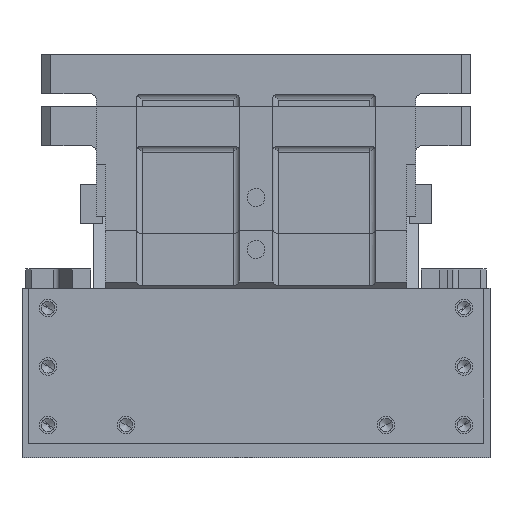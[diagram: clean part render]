
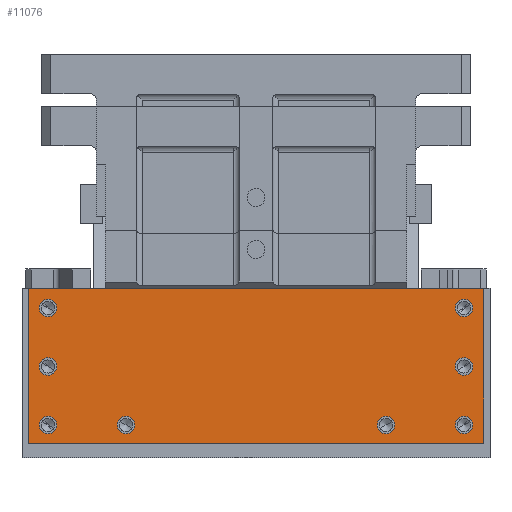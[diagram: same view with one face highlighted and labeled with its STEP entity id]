
A CAD part, left-side view. The second image highlights one B-rep face of the part: STEP entity #11076.
In plain terms, the highlighted planar face has unit normal (-1, 0, 0).
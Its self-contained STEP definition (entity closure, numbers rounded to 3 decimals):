
#8899=CARTESIAN_POINT('Vertex',(-12.,175.,130.)) ;
#8902=CARTESIAN_POINT('Line Origine',(-12.,0.,130.)) ;
#8906=CARTESIAN_POINT('Vertex',(-12.,-175.,130.)) ;
#10889=CARTESIAN_POINT('Vertex',(-12.,105.924,28.236)) ;
#10896=CARTESIAN_POINT('Vertex',(-12.,94.076,21.764)) ;
#10899=CARTESIAN_POINT('Axis2P3D Location',(-12.,100.,25.)) ;
#10911=CARTESIAN_POINT('Axis2P3D Location',(-12.,0.,0.)) ;
#10916=CARTESIAN_POINT('Line Origine',(-12.,175.,70.5)) ;
#10920=CARTESIAN_POINT('Vertex',(-12.,175.,11.)) ;
#10923=CARTESIAN_POINT('Line Origine',(-12.,0.,11.)) ;
#10927=CARTESIAN_POINT('Vertex',(-12.,-175.,11.)) ;
#10930=CARTESIAN_POINT('Line Origine',(-12.,-175.,70.5)) ;
#10941=CARTESIAN_POINT('Axis2P3D Location',(-12.,-160.,115.)) ;
#10945=CARTESIAN_POINT('Vertex',(-12.,-154.076,111.764)) ;
#10947=CARTESIAN_POINT('Vertex',(-12.,-165.924,118.236)) ;
#10950=CARTESIAN_POINT('Axis2P3D Location',(-12.,-160.,115.)) ;
#10959=CARTESIAN_POINT('Axis2P3D Location',(-12.,-100.,25.)) ;
#10963=CARTESIAN_POINT('Vertex',(-12.,-105.924,28.236)) ;
#10965=CARTESIAN_POINT('Vertex',(-12.,-94.076,21.764)) ;
#10968=CARTESIAN_POINT('Axis2P3D Location',(-12.,-100.,25.)) ;
#10977=CARTESIAN_POINT('Axis2P3D Location',(-12.,-160.,70.)) ;
#10981=CARTESIAN_POINT('Vertex',(-12.,-165.924,73.236)) ;
#10983=CARTESIAN_POINT('Vertex',(-12.,-154.076,66.764)) ;
#10986=CARTESIAN_POINT('Axis2P3D Location',(-12.,-160.,70.)) ;
#10995=CARTESIAN_POINT('Axis2P3D Location',(-12.,-160.,25.)) ;
#10999=CARTESIAN_POINT('Vertex',(-12.,-165.924,28.236)) ;
#11001=CARTESIAN_POINT('Vertex',(-12.,-154.076,21.764)) ;
#11004=CARTESIAN_POINT('Axis2P3D Location',(-12.,-160.,25.)) ;
#11013=CARTESIAN_POINT('Axis2P3D Location',(-12.,160.,115.)) ;
#11017=CARTESIAN_POINT('Vertex',(-12.,154.076,111.764)) ;
#11019=CARTESIAN_POINT('Vertex',(-12.,165.924,118.236)) ;
#11022=CARTESIAN_POINT('Axis2P3D Location',(-12.,160.,115.)) ;
#11031=CARTESIAN_POINT('Axis2P3D Location',(-12.,160.,70.)) ;
#11035=CARTESIAN_POINT('Vertex',(-12.,154.076,66.764)) ;
#11037=CARTESIAN_POINT('Vertex',(-12.,165.924,73.236)) ;
#11040=CARTESIAN_POINT('Axis2P3D Location',(-12.,160.,70.)) ;
#11049=CARTESIAN_POINT('Axis2P3D Location',(-12.,160.,25.)) ;
#11053=CARTESIAN_POINT('Vertex',(-12.,165.924,28.236)) ;
#11055=CARTESIAN_POINT('Vertex',(-12.,154.076,21.764)) ;
#11058=CARTESIAN_POINT('Axis2P3D Location',(-12.,160.,25.)) ;
#11067=CARTESIAN_POINT('Axis2P3D Location',(-12.,100.,25.)) ;
#8904=VECTOR('Line Direction',#8903,1.) ;
#10918=VECTOR('Line Direction',#10917,1.) ;
#10925=VECTOR('Line Direction',#10924,1.) ;
#10932=VECTOR('Line Direction',#10931,1.) ;
#8903=DIRECTION('Vector Direction',(0.,-1.,0.)) ;
#10900=DIRECTION('Axis2P3D Direction',(1.,0.,0.)) ;
#10912=DIRECTION('Axis2P3D Direction',(-1.,-0.,0.)) ;
#10913=DIRECTION('Axis2P3D XDirection',(0.,-1.,0.)) ;
#10917=DIRECTION('Vector Direction',(0.,0.,-1.)) ;
#10924=DIRECTION('Vector Direction',(0.,1.,0.)) ;
#10931=DIRECTION('Vector Direction',(0.,0.,-1.)) ;
#10942=DIRECTION('Axis2P3D Direction',(-1.,-0.,0.)) ;
#10951=DIRECTION('Axis2P3D Direction',(-1.,-0.,0.)) ;
#10960=DIRECTION('Axis2P3D Direction',(-1.,-0.,0.)) ;
#10969=DIRECTION('Axis2P3D Direction',(-1.,-0.,0.)) ;
#10978=DIRECTION('Axis2P3D Direction',(-1.,-0.,0.)) ;
#10987=DIRECTION('Axis2P3D Direction',(-1.,-0.,0.)) ;
#10996=DIRECTION('Axis2P3D Direction',(-1.,-0.,0.)) ;
#11005=DIRECTION('Axis2P3D Direction',(-1.,-0.,0.)) ;
#11014=DIRECTION('Axis2P3D Direction',(-1.,-0.,0.)) ;
#11023=DIRECTION('Axis2P3D Direction',(-1.,-0.,0.)) ;
#11032=DIRECTION('Axis2P3D Direction',(-1.,-0.,0.)) ;
#11041=DIRECTION('Axis2P3D Direction',(-1.,-0.,0.)) ;
#11050=DIRECTION('Axis2P3D Direction',(-1.,-0.,0.)) ;
#11059=DIRECTION('Axis2P3D Direction',(-1.,-0.,0.)) ;
#11068=DIRECTION('Axis2P3D Direction',(-1.,-0.,0.)) ;
#10901=AXIS2_PLACEMENT_3D('Circle Axis2P3D',#10899,#10900,$) ;
#10914=AXIS2_PLACEMENT_3D('Plane Axis2P3D',#10911,#10912,#10913) ;
#10943=AXIS2_PLACEMENT_3D('Circle Axis2P3D',#10941,#10942,$) ;
#10952=AXIS2_PLACEMENT_3D('Circle Axis2P3D',#10950,#10951,$) ;
#10961=AXIS2_PLACEMENT_3D('Circle Axis2P3D',#10959,#10960,$) ;
#10970=AXIS2_PLACEMENT_3D('Circle Axis2P3D',#10968,#10969,$) ;
#10979=AXIS2_PLACEMENT_3D('Circle Axis2P3D',#10977,#10978,$) ;
#10988=AXIS2_PLACEMENT_3D('Circle Axis2P3D',#10986,#10987,$) ;
#10997=AXIS2_PLACEMENT_3D('Circle Axis2P3D',#10995,#10996,$) ;
#11006=AXIS2_PLACEMENT_3D('Circle Axis2P3D',#11004,#11005,$) ;
#11015=AXIS2_PLACEMENT_3D('Circle Axis2P3D',#11013,#11014,$) ;
#11024=AXIS2_PLACEMENT_3D('Circle Axis2P3D',#11022,#11023,$) ;
#11033=AXIS2_PLACEMENT_3D('Circle Axis2P3D',#11031,#11032,$) ;
#11042=AXIS2_PLACEMENT_3D('Circle Axis2P3D',#11040,#11041,$) ;
#11051=AXIS2_PLACEMENT_3D('Circle Axis2P3D',#11049,#11050,$) ;
#11060=AXIS2_PLACEMENT_3D('Circle Axis2P3D',#11058,#11059,$) ;
#11069=AXIS2_PLACEMENT_3D('Circle Axis2P3D',#11067,#11068,$) ;
#8905=LINE('Line',#8902,#8904) ;
#10919=LINE('Line',#10916,#10918) ;
#10926=LINE('Line',#10923,#10925) ;
#10933=LINE('Line',#10930,#10932) ;
#10902=CIRCLE('generated circle',#10901,6.75) ;
#10944=CIRCLE('generated circle',#10943,6.75) ;
#10953=CIRCLE('generated circle',#10952,6.75) ;
#10962=CIRCLE('generated circle',#10961,6.75) ;
#10971=CIRCLE('generated circle',#10970,6.75) ;
#10980=CIRCLE('generated circle',#10979,6.75) ;
#10989=CIRCLE('generated circle',#10988,6.75) ;
#10998=CIRCLE('generated circle',#10997,6.75) ;
#11007=CIRCLE('generated circle',#11006,6.75) ;
#11016=CIRCLE('generated circle',#11015,6.75) ;
#11025=CIRCLE('generated circle',#11024,6.75) ;
#11034=CIRCLE('generated circle',#11033,6.75) ;
#11043=CIRCLE('generated circle',#11042,6.75) ;
#11052=CIRCLE('generated circle',#11051,6.75) ;
#11061=CIRCLE('generated circle',#11060,6.75) ;
#11070=CIRCLE('generated circle',#11069,6.75) ;
#10915=PLANE('',#10914) ;
#10958=FACE_BOUND('',#10955,.T.) ;
#10976=FACE_BOUND('',#10973,.T.) ;
#10994=FACE_BOUND('',#10991,.T.) ;
#11012=FACE_BOUND('',#11009,.T.) ;
#11030=FACE_BOUND('',#11027,.T.) ;
#11048=FACE_BOUND('',#11045,.T.) ;
#11066=FACE_BOUND('',#11063,.T.) ;
#11075=FACE_BOUND('',#11072,.T.) ;
#8908=EDGE_CURVE('',#8900,#8907,#8905,.T.) ;
#10903=EDGE_CURVE('',#10897,#10890,#10902,.F.) ;
#10922=EDGE_CURVE('',#8900,#10921,#10919,.T.) ;
#10929=EDGE_CURVE('',#10928,#10921,#10926,.T.) ;
#10934=EDGE_CURVE('',#8907,#10928,#10933,.T.) ;
#10949=EDGE_CURVE('',#10946,#10948,#10944,.F.) ;
#10954=EDGE_CURVE('',#10948,#10946,#10953,.F.) ;
#10967=EDGE_CURVE('',#10964,#10966,#10962,.F.) ;
#10972=EDGE_CURVE('',#10966,#10964,#10971,.F.) ;
#10985=EDGE_CURVE('',#10982,#10984,#10980,.F.) ;
#10990=EDGE_CURVE('',#10984,#10982,#10989,.F.) ;
#11003=EDGE_CURVE('',#11000,#11002,#10998,.F.) ;
#11008=EDGE_CURVE('',#11002,#11000,#11007,.F.) ;
#11021=EDGE_CURVE('',#11018,#11020,#11016,.T.) ;
#11026=EDGE_CURVE('',#11020,#11018,#11025,.T.) ;
#11039=EDGE_CURVE('',#11036,#11038,#11034,.T.) ;
#11044=EDGE_CURVE('',#11038,#11036,#11043,.T.) ;
#11057=EDGE_CURVE('',#11054,#11056,#11052,.T.) ;
#11062=EDGE_CURVE('',#11056,#11054,#11061,.T.) ;
#11071=EDGE_CURVE('',#10890,#10897,#11070,.T.) ;
#10935=EDGE_LOOP('',(#10936,#10937,#10938,#10939)) ;
#10955=EDGE_LOOP('',(#10956,#10957)) ;
#10973=EDGE_LOOP('',(#10974,#10975)) ;
#10991=EDGE_LOOP('',(#10992,#10993)) ;
#11009=EDGE_LOOP('',(#11010,#11011)) ;
#11027=EDGE_LOOP('',(#11028,#11029)) ;
#11045=EDGE_LOOP('',(#11046,#11047)) ;
#11063=EDGE_LOOP('',(#11064,#11065)) ;
#11072=EDGE_LOOP('',(#11073,#11074)) ;
#10936=ORIENTED_EDGE('',*,*,#10922,.T.) ;
#10937=ORIENTED_EDGE('',*,*,#10929,.F.) ;
#10938=ORIENTED_EDGE('',*,*,#10934,.F.) ;
#10939=ORIENTED_EDGE('',*,*,#8908,.F.) ;
#10956=ORIENTED_EDGE('',*,*,#10949,.T.) ;
#10957=ORIENTED_EDGE('',*,*,#10954,.T.) ;
#10974=ORIENTED_EDGE('',*,*,#10967,.T.) ;
#10975=ORIENTED_EDGE('',*,*,#10972,.T.) ;
#10992=ORIENTED_EDGE('',*,*,#10985,.T.) ;
#10993=ORIENTED_EDGE('',*,*,#10990,.T.) ;
#11010=ORIENTED_EDGE('',*,*,#11003,.T.) ;
#11011=ORIENTED_EDGE('',*,*,#11008,.T.) ;
#11028=ORIENTED_EDGE('',*,*,#11021,.F.) ;
#11029=ORIENTED_EDGE('',*,*,#11026,.F.) ;
#11046=ORIENTED_EDGE('',*,*,#11039,.F.) ;
#11047=ORIENTED_EDGE('',*,*,#11044,.F.) ;
#11064=ORIENTED_EDGE('',*,*,#11057,.F.) ;
#11065=ORIENTED_EDGE('',*,*,#11062,.F.) ;
#11073=ORIENTED_EDGE('',*,*,#11071,.F.) ;
#11074=ORIENTED_EDGE('',*,*,#10903,.F.) ;
#8900=VERTEX_POINT('',#8899) ;
#8907=VERTEX_POINT('',#8906) ;
#10890=VERTEX_POINT('',#10889) ;
#10897=VERTEX_POINT('',#10896) ;
#10921=VERTEX_POINT('',#10920) ;
#10928=VERTEX_POINT('',#10927) ;
#10946=VERTEX_POINT('',#10945) ;
#10948=VERTEX_POINT('',#10947) ;
#10964=VERTEX_POINT('',#10963) ;
#10966=VERTEX_POINT('',#10965) ;
#10982=VERTEX_POINT('',#10981) ;
#10984=VERTEX_POINT('',#10983) ;
#11000=VERTEX_POINT('',#10999) ;
#11002=VERTEX_POINT('',#11001) ;
#11018=VERTEX_POINT('',#11017) ;
#11020=VERTEX_POINT('',#11019) ;
#11036=VERTEX_POINT('',#11035) ;
#11038=VERTEX_POINT('',#11037) ;
#11054=VERTEX_POINT('',#11053) ;
#11056=VERTEX_POINT('',#11055) ;
#11076=ADVANCED_FACE('base',(#10940,#10958,#10976,#10994,#11012,#11030,#11048,#11066,#11075),#10915,.T.) ;
#10940=FACE_OUTER_BOUND('',#10935,.T.) ;
